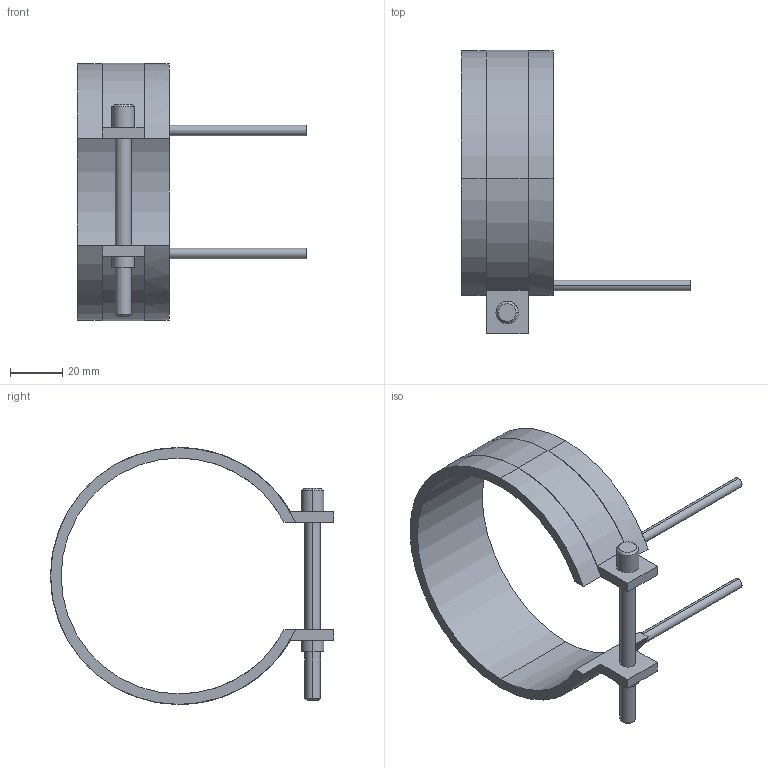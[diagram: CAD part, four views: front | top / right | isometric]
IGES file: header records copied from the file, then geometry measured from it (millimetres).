
Start section: START RECORD GO HERE.
Global section: file name: 14090035.igs; native system: DASSAULT SYSTEMES CATIA V5 R20 - www.3ds.com; preprocessor: CATIA Version 5 Release 20 ; author: Utente; organization: NB04-ASUS; date: 20210406.181138; units: millimetre
Bounding box: 87.5 x 108.1 x 98.2 mm (x, y, z)
Surface area: 24040.7 mm2 (no closed solid volume)
Topology: 0 solids, 0 shells, 45 faces, 232 edges, 232 vertices
Faces by surface type: revolution 28, plane 17
